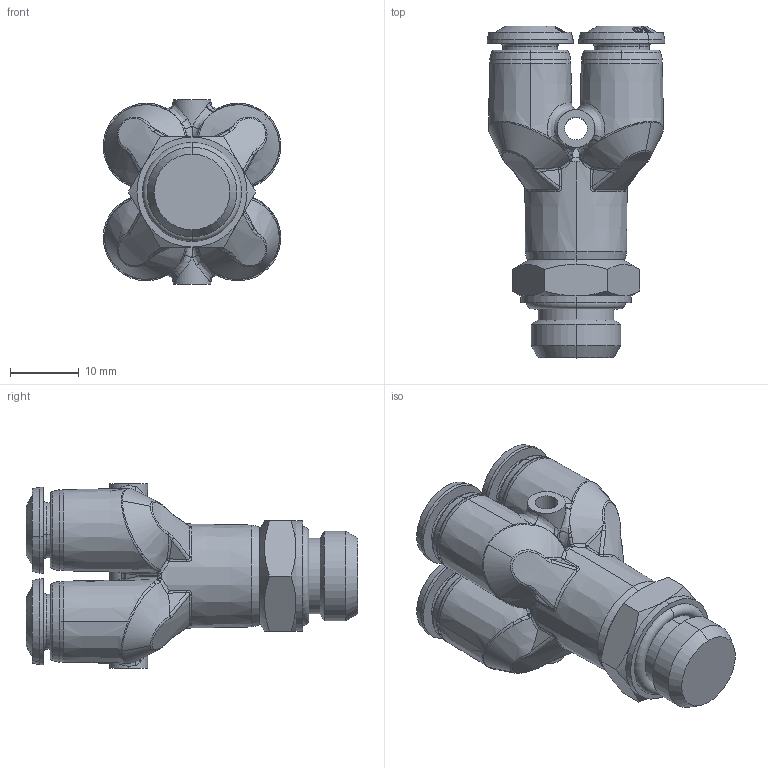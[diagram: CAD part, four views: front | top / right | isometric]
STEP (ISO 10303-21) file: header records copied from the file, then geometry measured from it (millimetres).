
FILE_DESCRIPTION (( 'STEP AP214' ), '1' );
FILE_NAME ('5534500004A.STEP', '2020-09-24T09:28:24', ( 'admin' ), ( '' ), 'SwSTEP 2.0', 'SolidWorks 2016', '' );
FILE_SCHEMA (( 'AUTOMOTIVE_DESIGN' ));
Length unit declared in the file: millimetre
Products named in the file (1): 5534500004A
Bounding box: 25.8 x 48.2 x 26.8 mm (x, y, z)
Volume: 11750.4 mm3; surface area: 6892.6 mm2
Topology: 1 solids, 1 shells, 561 faces, 1409 edges, 860 vertices
Faces by surface type: bspline 330, cone 109, plane 41, cylinder 39, torus 31, sphere 11
Entity records: 37059 total; most frequent: CARTESIAN_POINT 26138, ORIENTED_EDGE 2770, DIRECTION 1487, EDGE_CURVE 1385, VERTEX_POINT 860, B_SPLINE_CURVE_WITH_KNOTS 747, AXIS2_PLACEMENT_3D 617, EDGE_LOOP 597
